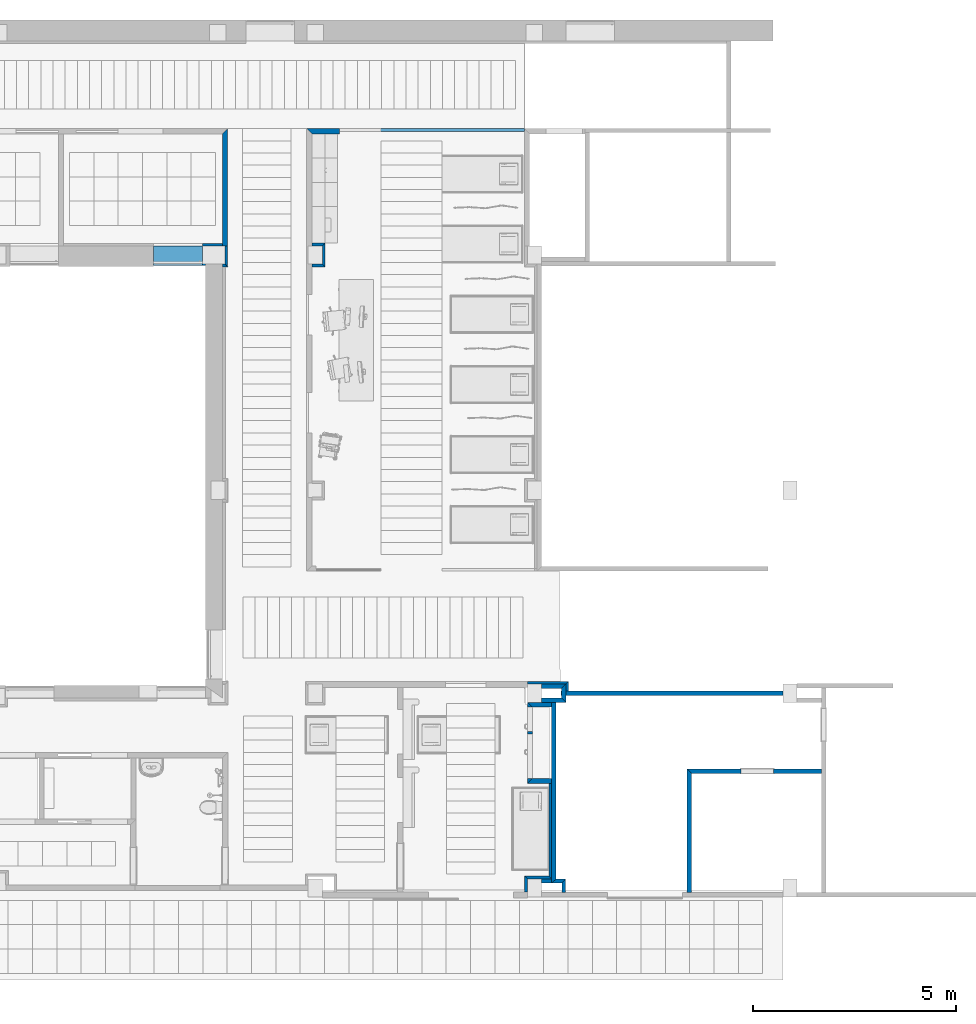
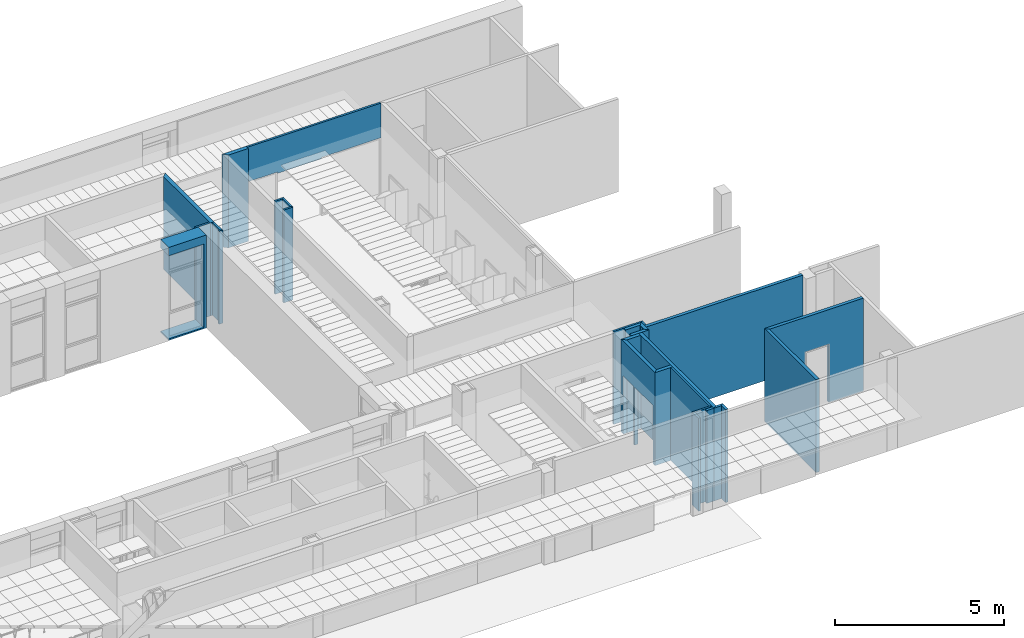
# One storey, part 45 of 68: 28 walls, 7 openings.
"""IFC2X3 building model written with IfcOpenShell, lengths in millimetres."""

from ifc_helpers import new_model, entity, si_unit, converted_unit, derived_unit, money_unit, direction, frame, origin_with_axes, origin_2d_with_axis, place, context, subcontext, project, spatial, polyline, rectangle, outline, extrude, material, layer, layer_set, layer_usage, type_object, element, save


model = new_model("IFC2X3")

# Units and contexts
model_context = context("Model", 3, precision=0.01, world=origin_with_axes(), true_north=direction((0.0, 1.0)))
body_context = subcontext(model_context, "Body", "Model", "MODEL_VIEW")
ifc_project = project(units=[si_unit("LENGTHUNIT", "METRE", prefix="MILLI"), si_unit("AREAUNIT", "SQUARE_METRE"), si_unit("VOLUMEUNIT", "CUBIC_METRE"), converted_unit("PLANEANGLEUNIT", "DEGREE", entity("IfcPlaneAngleMeasure", 0.0174532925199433), si_unit("PLANEANGLEUNIT", "RADIAN"), dimensions=[0, 0, 0, 0, 0, 0, 0]), money_unit("USD"), converted_unit("TIMEUNIT", "Year", entity("IfcTimeMeasure", 31557600.0), si_unit("TIMEUNIT", "SECOND"), dimensions=[0, 0, 1, 0, 0, 0, 0]), si_unit("MASSUNIT", "GRAM", prefix="KILO"), si_unit("THERMODYNAMICTEMPERATUREUNIT", "DEGREE_CELSIUS"), si_unit("LUMINOUSINTENSITYUNIT", "LUMEN"), si_unit("ENERGYUNIT", "JOULE", prefix="MEGA"), derived_unit("THERMALCONDUCTANCEUNIT", [(si_unit("POWERUNIT", "WATT"), 1), (si_unit("LENGTHUNIT", "METRE"), -1), (si_unit("THERMODYNAMICTEMPERATUREUNIT", "KELVIN"), -1)]), derived_unit("SPECIFICHEATCAPACITYUNIT", [(si_unit("ENERGYUNIT", "JOULE"), 1), (si_unit("MASSUNIT", "GRAM", prefix="KILO"), -1), (si_unit("THERMODYNAMICTEMPERATUREUNIT", "KELVIN"), -1)]), derived_unit("MASSDENSITYUNIT", [(si_unit("MASSUNIT", "GRAM", prefix="KILO"), 1), (si_unit("VOLUMEUNIT", "CUBIC_METRE"), -1)])], contexts=[model_context])

# Site, building, storey
site_placement = place(None, origin_with_axes())
site = spatial("IfcSite", under=ifc_project, at=site_placement, Name="Sitio", CompositionType="ELEMENT")
building_placement = place(site_placement, origin_with_axes())
building = spatial("IfcBuilding", under=site, at=building_placement, Name="Construcción", CompositionType="ELEMENT")
storey_placement = place(building_placement, origin_with_axes())
storey = spatial("IfcBuildingStorey", under=building, at=storey_placement, Name="PLANTA 1ª", CompositionType="ELEMENT", Elevation=0.0)

# Wall, opening
ifc_material_1 = material(Name="ARQ_AM246_Arrebossat_De_Guix")
ifc_layer_1 = layer(ifc_material_1, 10.0, ventilated="UNKNOWN")
ifc_material_2 = material(Name="ARQ_CE217_Gero")
ifc_layer_2 = layer(ifc_material_2, 120.0, ventilated="UNKNOWN")
ifc_material_3 = material(Name="ARQ_AI031_Aillament_Poliestireno expandido EPS")
ifc_layer_3 = layer(ifc_material_3, 120.0, ventilated="UNKNOWN")
ifc_material_4 = material(Name="ARQ_CE218_Ceramic")
ifc_layer_4 = layer(ifc_material_4, 220.0, ventilated="UNKNOWN")
ifc_layer_5 = layer(ifc_material_1, 10.0, ventilated="UNKNOWN")
ifc_layer_set_1 = layer_set([ifc_layer_1, ifc_layer_2, ifc_layer_3, ifc_layer_4, ifc_layer_5], Name="façana pati CR2 (ampit)")
ifc_layer_usage_1 = layer_usage(ifc_layer_set_1, "AXIS2", "POSITIVE", -480.0)
wall_type_1 = type_object("IfcWallType", Name="façana pati CR2 (ampit) 480", PredefinedType="NOTDEFINED")
wall_1_placement = place(storey_placement, frame((-3383.431355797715, -1193.975823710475, 0.0), z_axis=(0.0, 0.0, 1.0), x_axis=(1.0, 0.0, 0.0)))
wall_1 = element("IfcWallStandardCase", 1, at=wall_1_placement, inside=storey, type_object=wall_type_1, material=ifc_layer_usage_1, Name="MS-200", context=body_context, shape_type="SweptSolid", body=[
    extrude(outline(polyline([(0.0, -480.0), (1282.322350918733, -480.0), (1282.322350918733, 0.0), (0.0, 0.0), (0.0, -480.0)])), origin_with_axes(), (0.0, 0.0, 1.0), 3350.0),
])
opening_1_placement = place(wall_1_placement, frame((599.9999999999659, 0.0, 50.0), z_axis=(0.0, 0.0, 1.0), x_axis=(1.0, 0.0, 0.0)))
element("IfcOpeningElement", 2, at=opening_1_placement, cuts=wall_1, Name="F01", context=body_context, shape_type="SweptSolid", body=[
    extrude(rectangle(XDim=1199.999999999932, YDim=3000.0, at=origin_2d_with_axis()), frame((0.0, -429.9999999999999, 1500.0), z_axis=(0.0, -1.0, 0.0), x_axis=(-1.0, 0.0, 0.0)), (0.0, 0.0, -1.0), 909.9999999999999),
    extrude(rectangle(XDim=1199.999999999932, YDim=3000.0, at=origin_2d_with_axis()), frame((0.0, -429.9999999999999, 1500.0), z_axis=(0.0, 1.0, 0.0), x_axis=(-1.0, 0.0, 0.0)), (0.0, 0.0, -1.0), 530.0),
])

# Walls
ifc_material_5 = material(Name="Panel de Yeso Laminado")
ifc_layer_6 = layer(ifc_material_5, 13.0, ventilated="UNKNOWN")
ifc_layer_7 = layer(ifc_material_5, 13.0, ventilated="UNKNOWN")
ifc_material_6 = material(Name="ARQ_AI033_Aillament_Llana_De_Roca")
ifc_layer_8 = layer(ifc_material_6, 70.0, ventilated="UNKNOWN")
ifc_layer_9 = layer(ifc_material_5, 13.0, ventilated="UNKNOWN")
ifc_layer_10 = layer(ifc_material_5, 13.0, ventilated="UNKNOWN")
ifc_material_7 = material(Name="ARQ_EN271_Camara_Aire")
ifc_layer_11 = layer(ifc_material_7, 6.0, ventilated="UNKNOWN")
ifc_material_8 = material(Name="ARQ_FU093_Panellat_HPL")
ifc_layer_12 = layer(ifc_material_8, 6.0, ventilated="UNKNOWN")
ifc_layer_set_2 = layer_set([ifc_layer_6, ifc_layer_7, ifc_layer_8, ifc_layer_9, ifc_layer_10, ifc_layer_11, ifc_layer_12], Name="CR Pladur 70 HPL 1 cara")
ifc_layer_usage_2 = layer_usage(ifc_layer_set_2, "AXIS2", "NEGATIVE", 0.0)
wall_type_2 = type_object("IfcWallType", Name="CR Pladur 70 HPL 1 cara 134", PredefinedType="NOTDEFINED")
wall_2_placement = place(storey_placement, frame((-1690.109004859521, -1193.975823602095, 0.0), z_axis=(0.0, 0.0, 1.0), x_axis=(0.0, 1.0, 0.0)))
element("IfcWallStandardCase", 3, at=wall_2_placement, inside=storey, type_object=wall_type_2, material=ifc_layer_usage_2, Name="MS-213", context=body_context, shape_type="SweptSolid", body=[
    extrude(outline(polyline([(0.0, -133.9999999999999), (2894.828879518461, -133.9999999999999), (2760.828879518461, 0.0), (0.0, 0.0), (0.0, -133.9999999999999)])), origin_with_axes(), (0.0, 0.0, 1.0), 3350.0),
])
ifc_layer_usage_3 = layer_usage(ifc_layer_set_2, "AXIS2", "POSITIVE", -134.0)
wall_3_placement = place(storey_placement, frame((390.8910778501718, 1700.853055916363, 0.0), z_axis=(0.0, 0.0, 1.0), x_axis=(1.0, 0.0, 0.0)))
element("IfcWallStandardCase", 4, at=wall_3_placement, inside=storey, type_object=wall_type_2, material=ifc_layer_usage_3, Name="MS-212", context=body_context, shape_type="SweptSolid", body=[
    extrude(outline(polyline([(133.9999999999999, -134.0000000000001), (814.1461255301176, -134.0000000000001), (814.1461255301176, 0.0), (0.0, 0.0), (133.9999999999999, -134.0000000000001)])), origin_with_axes(), (0.0, 0.0, 1.0), 3350.0),
])

# Wall, openings
ifc_layer_13 = layer(ifc_material_5, 5.0, ventilated="UNKNOWN")
ifc_layer_14 = layer(ifc_material_6, 60.0, ventilated="UNKNOWN")
ifc_layer_15 = layer(ifc_material_5, 5.0, ventilated="UNKNOWN")
ifc_layer_set_3 = layer_set([ifc_layer_13, ifc_layer_14, ifc_layer_15], Name="CR- MAMPARA")
ifc_layer_usage_4 = layer_usage(ifc_layer_set_3, "AXIS2", "POSITIVE", -70.0)
wall_type_3 = type_object("IfcWallType", Name="CR- MAMPARA 70", PredefinedType="NOTDEFINED")
wall_4_placement = place(storey_placement, frame((1205.037203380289, 1700.853055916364, 0.0), z_axis=(0.0, 0.0, 1.0), x_axis=(1.0, 0.0, 0.0)))
wall_4 = element("IfcWallStandardCase", 5, at=wall_4_placement, inside=storey, type_object=wall_type_3, material=ifc_layer_usage_4, Name="MS-212", context=body_context, shape_type="SweptSolid", body=[
    extrude(outline(polyline([(0.0, -70.00000000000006), (4558.85379170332, -70.00000000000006), (4558.85379170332, 0.0), (0.0, 0.0), (0.0, -70.00000000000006)])), origin_with_axes(), (0.0, 0.0, 1.0), 3350.0),
])
opening_2_placement = place(wall_4_placement, frame((510.8960263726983, 0.0, 0.0), z_axis=(0.0, 0.0, 1.0), x_axis=(1.0, 0.0, 0.0)))
element("IfcOpeningElement", 6, at=opening_2_placement, cuts=wall_4, Name="M-08", context=body_context, shape_type="SweptSolid", body=[
    extrude(rectangle(XDim=1021.792052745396, YDim=2100.0, at=origin_2d_with_axis()), frame((0.0, -69.99999999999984, 1050.0), z_axis=(0.0, 1.0, 0.0), x_axis=(1.0, 0.0, 0.0)), (0.0, 0.0, 1.0), 210.0),
])
opening_3_placement = place(wall_4_placement, frame((3540.322922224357, 0.0, 0.0), z_axis=(0.0, 0.0, 1.0), x_axis=(1.0, 0.0, 0.0)))
element("IfcOpeningElement", 7, at=opening_3_placement, cuts=wall_4, Name="M-09", context=body_context, shape_type="SweptSolid", body=[
    extrude(rectangle(XDim=2037.061738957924, YDim=2100.0, at=origin_2d_with_axis()), frame((0.0, -69.99999999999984, 1050.0), z_axis=(0.0, 1.0, 0.0), x_axis=(1.0, 0.0, 0.0)), (0.0, 0.0, 1.0), 210.0),
])
opening_4_placement = place(wall_4_placement, frame((1771.792052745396, 0.0, 0.0), z_axis=(0.0, 0.0, 1.0), x_axis=(1.0, 0.0, 0.0)))
element("IfcOpeningElement", 8, at=opening_4_placement, cuts=wall_4, Name="PF-19D", context=body_context, shape_type="SweptSolid", body=[
    extrude(rectangle(XDim=1500.0, YDim=2050.0, at=origin_2d_with_axis()), frame((0.0, -69.99999999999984, 1025.0), z_axis=(0.0, -1.0, 0.0), x_axis=(1.0, 0.0, 0.0)), (0.0, 0.0, -1.0), 210.0),
])

# Walls
ifc_layer_16 = layer(ifc_material_8, 6.0, ventilated="UNKNOWN")
ifc_layer_17 = layer(ifc_material_7, 6.0, ventilated="UNKNOWN")
ifc_layer_18 = layer(ifc_material_5, 13.0, ventilated="UNKNOWN")
ifc_layer_19 = layer(ifc_material_6, 40.0, ventilated="UNKNOWN")
ifc_layer_set_4 = layer_set([ifc_layer_16, ifc_layer_17, ifc_layer_18, ifc_layer_19], Name="Pladur Tras 40 / 1N +HPL")
ifc_layer_usage_5 = layer_usage(ifc_layer_set_4, "AXIS2", "NEGATIVE", 65.0)
wall_type_4 = type_object("IfcWallType", Name="Pladur Tras 40 / 1N +HPL 65", PredefinedType="NOTDEFINED")
wall_5_placement = place(storey_placement, frame((6779.89099508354, -11988.97582371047, 0.0), z_axis=(0.0, 0.0, 1.0), x_axis=(0.0, -1.0, 0.0)))
element("IfcWallStandardCase", 9, at=wall_5_placement, inside=storey, type_object=wall_type_4, material=ifc_layer_usage_5, Name="MS-232", context=body_context, shape_type="SweptSolid", body=[
    extrude(outline(polyline([(0.0, 0.0), (169.9999999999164, 0.0), (169.9999999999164, 65.0000000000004), (-64.9999999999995, 65.0000000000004), (0.0, 0.0)])), origin_with_axes(), (0.0, 0.0, 1.0), 3350.0),
])
ifc_layer_usage_6 = layer_usage(ifc_layer_set_4, "AXIS2", "NEGATIVE", 65.0)
wall_6_placement = place(storey_placement, frame((5828.890995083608, -11988.97582371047, 0.0), z_axis=(0.0, 0.0, 1.0), x_axis=(1.0, 0.0, 0.0)))
element("IfcWallStandardCase", 10, at=wall_6_placement, inside=storey, type_object=wall_type_4, material=ifc_layer_usage_6, Name="MS-232", context=body_context, shape_type="SweptSolid", body=[
    extrude(outline(polyline([(0.0, 0.0), (950.9999999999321, 0.0), (1015.999999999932, 64.9999999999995), (0.0, 64.9999999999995), (0.0, 0.0)])), origin_with_axes(), (0.0, 0.0, 1.0), 3350.0),
])
ifc_layer_usage_7 = layer_usage(ifc_layer_set_4, "AXIS2", "POSITIVE", 0.0)
wall_7_placement = place(storey_placement, frame((6363.890995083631, -14316.97582370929, 0.0), z_axis=(0.0, 0.0, 1.0), x_axis=(0.0, -1.0, 0.0)))
element("IfcWallStandardCase", 11, at=wall_7_placement, inside=storey, type_object=wall_type_4, material=ifc_layer_usage_7, Name="MS-233", context=body_context, shape_type="SweptSolid", body=[
    extrude(outline(polyline([(121.9999999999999, 0.0), (2406.999834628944, 0.0), (2471.999834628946, 65.0000000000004), (122.000000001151, 65.0000000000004), (121.9999999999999, 0.0)])), origin_with_axes(), (0.0, 0.0, 1.0), 3350.0),
])
ifc_layer_usage_8 = layer_usage(ifc_layer_set_4, "AXIS2", "POSITIVE", 0.0)
wall_8_placement = place(storey_placement, frame((6363.890995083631, -16723.97565833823, 0.0), z_axis=(0.0, 0.0, 1.0), x_axis=(-1.0, 0.0, 0.0)))
element("IfcWallStandardCase", 12, at=wall_8_placement, inside=storey, type_object=wall_type_4, material=ifc_layer_usage_8, Name="MS-234", context=body_context, shape_type="SweptSolid", body=[
    extrude(outline(polyline([(0.0, 0.0), (599.9999474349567, 0.0), (534.9999474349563, 65.00000000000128), (-65.0000000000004, 65.00000000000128), (0.0, 0.0)])), origin_with_axes(), (0.0, 0.0, 1.0), 3350.0),
])
ifc_layer_usage_9 = layer_usage(ifc_layer_set_4, "AXIS2", "POSITIVE", 0.0)
wall_9_placement = place(storey_placement, frame((5763.891047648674, -16723.97565833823, 0.0), z_axis=(0.0, 0.0, 1.0), x_axis=(0.0, -1.0, 0.0)))
element("IfcWallStandardCase", 13, at=wall_9_placement, inside=storey, type_object=wall_type_4, material=ifc_layer_usage_9, Name="MS-235", context=body_context, shape_type="SweptSolid", body=[
    extrude(outline(polyline([(0.0, 0.0), (395.0000006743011, 0.0), (395.0000006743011, 65.0000000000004), (65.00000000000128, 65.0000000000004), (0.0, 0.0)])), origin_with_axes(), (0.0, 0.0, 1.0), 3350.0),
])
ifc_layer_usage_10 = layer_usage(ifc_layer_set_4, "AXIS2", "POSITIVE", -65.0)
wall_10_placement = place(storey_placement, frame((-1681.10900487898, -1638.975823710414, 0.0), z_axis=(0.0, 0.0, 1.0), x_axis=(1.0, 0.0, 0.0)))
element("IfcWallStandardCase", 14, at=wall_10_placement, inside=storey, type_object=wall_type_4, material=ifc_layer_usage_10, Name="MS-242", context=body_context, shape_type="SweptSolid", body=[
    extrude(outline(polyline([(0.0, -64.99999999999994), (125.0000000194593, -64.99999999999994), (60.00000001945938, 0.0), (0.0, 0.0), (0.0, -64.99999999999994)])), origin_with_axes(), (0.0, 0.0, 1.0), 3350.0),
])
ifc_layer_usage_11 = layer_usage(ifc_layer_set_4, "AXIS2", "POSITIVE", -65.0)
wall_11_placement = place(storey_placement, frame((-1621.109004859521, -1638.975823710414, 0.0), z_axis=(0.0, 0.0, 1.0), x_axis=(0.0, 1.0, 0.0)))
element("IfcWallStandardCase", 15, at=wall_11_placement, inside=storey, type_object=wall_type_4, material=ifc_layer_usage_11, Name="MS-243", context=body_context, shape_type="SweptSolid", body=[
    extrude(outline(polyline([(-64.99999999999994, -64.99999999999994), (445.0000001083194, -64.99999999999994), (445.0000001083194, 0.0), (0.0, 0.0), (-64.99999999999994, -64.99999999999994)])), origin_with_axes(), (0.0, 0.0, 1.0), 3350.0),
])
ifc_layer_20 = layer(ifc_material_1, 10.0, ventilated="UNKNOWN")
ifc_layer_21 = layer(ifc_material_2, 90.0, ventilated="UNKNOWN")
ifc_layer_22 = layer(ifc_material_1, 10.0, ventilated="UNKNOWN")
ifc_layer_set_5 = layer_set([ifc_layer_20, ifc_layer_21, ifc_layer_22], Name="CR Enva Totxana")
ifc_layer_usage_12 = layer_usage(ifc_layer_set_5, "AXIS2", "POSITIVE", 0.0)
wall_type_5 = type_object("IfcWallType", Name="CR Enva Totxana 110", PredefinedType="NOTDEFINED")
wall_12_placement = place(storey_placement, frame((6428.890995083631, -12438.97582371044, 0.0), z_axis=(0.0, 0.0, 1.0), x_axis=(0.0, -1.0, 0.0)))
element("IfcWallStandardCase", 16, at=wall_12_placement, inside=storey, type_object=wall_type_5, material=ifc_layer_usage_12, Name="MS-207", context=body_context, shape_type="SweptSolid", body=[
    extrude(outline(polyline([(0.0, 0.0), (4450.000000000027, 0.0), (4360.000000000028, 110.0000000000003), (0.0, 110.0000000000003), (0.0, 0.0)])), origin_with_axes(), (0.0, 0.0, 1.0), 3350.0),
])
ifc_layer_usage_13 = layer_usage(ifc_layer_set_5, "AXIS2", "POSITIVE", 0.0)
wall_13_placement = place(storey_placement, frame((6178.891047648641, -12438.97582371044, 0.0), z_axis=(0.0, 0.0, 1.0), x_axis=(1.0, 0.0, 0.0)))
element("IfcWallStandardCase", 17, at=wall_13_placement, inside=storey, type_object=wall_type_5, material=ifc_layer_usage_13, Name="MS-206", context=body_context, shape_type="SweptSolid", body=[
    extrude(outline(polyline([(0.0, 0.0), (599.9999474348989, 0.0), (489.9999474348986, 109.9999999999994), (0.0, 109.9999999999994), (0.0, 0.0)])), origin_with_axes(), (0.0, 0.0, 1.0), 3350.0),
])
ifc_layer_usage_14 = layer_usage(ifc_layer_set_5, "AXIS2", "POSITIVE", 0.0)
wall_14_placement = place(storey_placement, frame((9768.890995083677, -14188.97582371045, 0.0), z_axis=(0.0, 0.0, 1.0), x_axis=(0.0, -1.0, 0.0)))
element("IfcWallStandardCase", 18, at=wall_14_placement, inside=storey, type_object=wall_type_5, material=ifc_layer_usage_14, Name="MS-207", context=body_context, shape_type="SweptSolid", body=[
    extrude(outline(polyline([(-109.9999999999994, 0.0), (2939.999835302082, 0.0), (2939.999835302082, 109.9999999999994), (0.0, 109.9999999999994), (-109.9999999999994, 0.0)])), origin_with_axes(), (0.0, 0.0, 1.0), 3350.0),
])

# Wall, opening
ifc_layer_usage_15 = layer_usage(ifc_layer_set_5, "AXIS2", "POSITIVE", 0.0)
wall_15_placement = place(storey_placement, frame((9768.890995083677, -14188.97582371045, 0.0), z_axis=(0.0, 0.0, 1.0), x_axis=(1.0, 0.0, 0.0)))
wall_15 = element("IfcWallStandardCase", 19, at=wall_15_placement, inside=storey, type_object=wall_type_5, material=ifc_layer_usage_15, Name="MS-206", context=body_context, shape_type="SweptSolid", body=[
    extrude(outline(polyline([(109.9999999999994, 0.0), (3309.999999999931, 0.0), (3309.999999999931, 109.9999999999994), (0.0, 109.9999999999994), (109.9999999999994, 0.0)])), origin_with_axes(), (0.0, 0.0, 1.0), 3350.0),
])
opening_5_placement = place(wall_15_placement, frame((1729.853695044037, 0.0, 0.0), z_axis=(0.0, 0.0, 1.0), x_axis=(1.0, 0.0, 0.0)))
element("IfcOpeningElement", 20, at=opening_5_placement, cuts=wall_15, Name="PF-10D", context=body_context, shape_type="SweptSolid", body=[
    extrude(rectangle(XDim=800.0000000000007, YDim=2100.0, at=origin_2d_with_axis()), frame((0.0, 109.9999999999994, 1050.0), z_axis=(0.0, -1.0, 0.0), x_axis=(-1.0, 0.0, 0.0)), (0.0, 0.0, 1.0), 329.9999999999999),
    extrude(rectangle(XDim=844.0000000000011, YDim=2122.0, at=origin_2d_with_axis()), frame((0.0, 110.0000000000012, 1061.0), z_axis=(0.0, -1.0, 0.0), x_axis=(-1.0, 0.0, 0.0)), (0.0, 0.0, -1.0), 110.0),
    extrude(rectangle(XDim=844.0000000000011, YDim=2122.0, at=origin_2d_with_axis()), frame((0.0, 0.0, 1061.0), z_axis=(0.0, 1.0, 0.0), x_axis=(-1.0, 0.0, 0.0)), (0.0, 0.0, -1.0), 110.0),
])

# Walls
ifc_layer_usage_16 = layer_usage(ifc_layer_set_5, "AXIS2", "POSITIVE", 0.0)
wall_16_placement = place(storey_placement, frame((6778.89099508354, -12438.97582371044, 0.0), z_axis=(0.0, 0.0, 1.0), x_axis=(0.0, 1.0, 0.0)))
element("IfcWallStandardCase", 21, at=wall_16_placement, inside=storey, type_object=wall_type_5, material=ifc_layer_usage_16, Name="MS-206", context=body_context, shape_type="SweptSolid", body=[
    extrude(outline(polyline([(0.0, 0.0), (449.9999999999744, 0.0), (339.999999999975, 110.0000000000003), (109.9999999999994, 110.0000000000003), (0.0, 0.0)])), origin_with_axes(), (0.0, 0.0, 1.0), 3350.0),
])
ifc_layer_usage_17 = layer_usage(ifc_layer_set_5, "AXIS2", "POSITIVE", 0.0)
wall_17_placement = place(storey_placement, frame((6178.891047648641, -12098.97582371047, 0.0), z_axis=(0.0, 0.0, 1.0), x_axis=(1.0, 0.0, 0.0)))
element("IfcWallStandardCase", 22, at=wall_17_placement, inside=storey, type_object=wall_type_5, material=ifc_layer_usage_17, Name="MS-206", context=body_context, shape_type="SweptSolid", body=[
    extrude(outline(polyline([(0.0, 0.0), (489.9999474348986, 0.0), (599.9999474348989, 109.9999999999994), (0.0, 109.9999999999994), (0.0, 0.0)])), origin_with_axes(), (0.0, 0.0, 1.0), 3350.0),
])
ifc_layer_usage_18 = layer_usage(ifc_layer_set_5, "AXIS2", "POSITIVE", 0.0)
wall_18_placement = place(storey_placement, frame((6655.026149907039, -12268.97582371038, 0.0), z_axis=(0.0, 0.0, 1.0), x_axis=(1.0, 0.0, 0.0)))
element("IfcWallStandardCase", 23, at=wall_18_placement, inside=storey, type_object=wall_type_5, material=ifc_layer_usage_18, Name="MS-206", context=body_context, shape_type="SweptSolid", body=[
    extrude(outline(polyline([(0.0, 0.0), (5473.86484517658, 0.0), (5473.86484517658, 109.9999999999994), (0.0, 109.9999999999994), (0.0, 0.0)])), origin_with_axes(), (0.0, 0.0, 1.0), 3350.0),
])
ifc_layer_23 = layer(ifc_material_1, 10.0, ventilated="UNKNOWN")
ifc_layer_24 = layer(ifc_material_2, 70.0, ventilated="UNKNOWN")
ifc_layer_25 = layer(ifc_material_1, 10.0, ventilated="UNKNOWN")
ifc_layer_set_6 = layer_set([ifc_layer_23, ifc_layer_24, ifc_layer_25], Name="CR Enva Totxaneta")
ifc_layer_usage_19 = layer_usage(ifc_layer_set_6, "AXIS2", "POSITIVE", 0.0)
wall_type_6 = type_object("IfcWallType", Name="CR Enva Totxaneta 90", PredefinedType="NOTDEFINED")
wall_19_placement = place(storey_placement, frame((6428.890995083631, -16888.97582371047, 0.0), z_axis=(0.0, 0.0, 1.0), x_axis=(1.0, 0.0, 0.0)))
element("IfcWallStandardCase", 24, at=wall_19_placement, inside=storey, type_object=wall_type_6, material=ifc_layer_usage_19, Name="MS-208", context=body_context, shape_type="SweptSolid", body=[
    extrude(outline(polyline([(0.0, 0.0), (250.0, 0.0), (339.9999999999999, 89.99999999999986), (110.0000000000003, 89.99999999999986), (0.0, 0.0)])), origin_with_axes(), (0.0, 0.0, 1.0), 3350.0),
])
ifc_layer_usage_20 = layer_usage(ifc_layer_set_6, "AXIS2", "POSITIVE", 0.0)
wall_20_placement = place(storey_placement, frame((6678.890995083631, -16888.97582371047, 0.0), z_axis=(0.0, 0.0, 1.0), x_axis=(0.0, -1.0, 0.0)))
element("IfcWallStandardCase", 25, at=wall_20_placement, inside=storey, type_object=wall_type_6, material=ifc_layer_usage_20, Name="MS-209", context=body_context, shape_type="SweptSolid", body=[
    extrude(outline(polyline([(0.0, 0.0), (239.9998353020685, 0.0), (239.9998353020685, 89.99999999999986), (-89.99999999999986, 89.99999999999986), (0.0, 0.0)])), origin_with_axes(), (0.0, 0.0, 1.0), 3350.0),
])
ifc_layer_usage_21 = layer_usage(ifc_layer_set_6, "AXIS2", "POSITIVE", -90.0)
wall_21_placement = place(storey_placement, frame((6428.890995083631, -16888.97582371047, 0.0), z_axis=(0.0, 0.0, 1.0), x_axis=(-1.0, 0.0, 0.0)))
element("IfcWallStandardCase", 26, at=wall_21_placement, inside=storey, type_object=wall_type_6, material=ifc_layer_usage_21, Name="MS-210", context=body_context, shape_type="SweptSolid", body=[
    extrude(outline(polyline([(0.0, -89.99999999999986), (250.0, -89.99999999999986), (250.0, 0.0), (0.0, 0.0), (0.0, -89.99999999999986)])), origin_with_axes(), (0.0, 0.0, 1.0), 3350.0),
])
ifc_layer_26 = layer(ifc_material_5, 13.0, ventilated="UNKNOWN")
ifc_layer_27 = layer(ifc_material_5, 13.0, ventilated="UNKNOWN")
ifc_layer_28 = layer(ifc_material_6, 40.0, ventilated="UNKNOWN")
ifc_layer_set_7 = layer_set([ifc_layer_26, ifc_layer_27, ifc_layer_28], Name="Pladur Tras 40 / 2N")
ifc_layer_usage_22 = layer_usage(ifc_layer_set_7, "AXIS2", "POSITIVE", 0.0)
wall_type_7 = type_object("IfcWallType", Name="Pladur Tras 40 / 2N 66", PredefinedType="NOTDEFINED")
wall_22_placement = place(storey_placement, frame((843.8910476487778, -1703.975823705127, 0.0), z_axis=(0.0, 0.0, 1.0), x_axis=(0.0, 1.0, 0.0)))
element("IfcWallStandardCase", 27, at=wall_22_placement, inside=storey, type_object=wall_type_7, material=ifc_layer_usage_22, Name="MS-212", context=body_context, shape_type="SweptSolid", body=[
    extrude(outline(polyline([(0.0, 0.0), (580.0001646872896, 0.0), (514.0001646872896, 66.00000000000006), (66.00000000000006, 66.00000000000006), (0.0, 0.0)])), origin_with_axes(), (0.0, 0.0, 1.0), 3350.0),
])
ifc_layer_usage_23 = layer_usage(ifc_layer_set_7, "AXIS2", "POSITIVE", 0.0)
wall_23_placement = place(storey_placement, frame((843.8910476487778, -1123.975659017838, 0.0), z_axis=(0.0, 0.0, 1.0), x_axis=(-1.0, 0.0, 0.0)))
element("IfcWallStandardCase", 28, at=wall_23_placement, inside=storey, type_object=wall_type_7, material=ifc_layer_usage_23, Name="MS-212", context=body_context, shape_type="SweptSolid", body=[
    extrude(outline(polyline([(0.0, 0.0), (318.9999697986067, 0.0), (318.9999697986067, 66.00000000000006), (66.00000000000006, 66.00000000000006), (0.0, 0.0)])), origin_with_axes(), (0.0, 0.0, 1.0), 3350.0),
])
ifc_layer_usage_24 = layer_usage(ifc_layer_set_7, "AXIS2", "POSITIVE", 0.0)
wall_24_placement = place(storey_placement, frame((390.891077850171, -1703.975823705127, 0.0), z_axis=(0.0, 0.0, 1.0), x_axis=(1.0, 0.0, 0.0)))
element("IfcWallStandardCase", 29, at=wall_24_placement, inside=storey, type_object=wall_type_7, material=ifc_layer_usage_24, Name="MS-212", context=body_context, shape_type="SweptSolid", body=[
    extrude(outline(polyline([(134.0, 0.0), (452.9999697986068, 0.0), (386.9999697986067, 66.00000000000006), (134.0, 66.00000000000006), (134.0, 0.0)])), origin_with_axes(), (0.0, 0.0, 1.0), 3350.0),
])
ifc_layer_usage_25 = layer_usage(ifc_layer_set_7, "AXIS2", "NEGATIVE", 0.0)
wall_25_placement = place(storey_placement, frame((-2183.431355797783, -1128.975823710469, 0.0), z_axis=(0.0, 0.0, 1.0), x_axis=(1.0, 0.0, 0.0)))
element("IfcWallStandardCase", 30, at=wall_25_placement, inside=storey, type_object=wall_type_7, material=ifc_layer_usage_25, Name="MS-241", context=body_context, shape_type="SweptSolid", body=[
    extrude(outline(polyline([(0.0, -66.00000000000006), (493.3223509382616, -66.00000000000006), (493.3223509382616, 0.0), (0.0, 0.0), (0.0, -66.00000000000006)])), origin_with_axes(), (0.0, 0.0, 1.0), 3350.0),
])
ifc_material_9 = material(Name="ARQ_CG062_Guix_Laminat_Foc")
ifc_layer_29 = layer(ifc_material_9, 13.0, ventilated="UNKNOWN")
ifc_layer_30 = layer(ifc_material_9, 13.0, ventilated="UNKNOWN")
ifc_layer_31 = layer(ifc_material_6, 70.0, ventilated="UNKNOWN")
ifc_layer_32 = layer(ifc_material_9, 13.0, ventilated="UNKNOWN")
ifc_layer_33 = layer(ifc_material_9, 13.0, ventilated="UNKNOWN")
ifc_layer_set_8 = layer_set([ifc_layer_29, ifc_layer_30, ifc_layer_31, ifc_layer_32, ifc_layer_33], Name="Pladur 70 Foc/ 2F+2F")
ifc_layer_usage_26 = layer_usage(ifc_layer_set_8, "AXIS2", "POSITIVE", 0.0)
wall_type_8 = type_object("IfcWallType", Name="Pladur 70 Foc/ 2F+2F 122", PredefinedType="NOTDEFINED")
wall_26_placement = place(storey_placement, frame((6428.890995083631, -12438.97582371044, 0.0), z_axis=(0.0, 0.0, 1.0), x_axis=(-1.0, 0.0, 0.0)))
element("IfcWallStandardCase", 31, at=wall_26_placement, inside=storey, type_object=wall_type_8, material=ifc_layer_usage_26, Name="MS-216", context=body_context, shape_type="SweptSolid", body=[
    extrude(outline(polyline([(0.0, 0.0), (600.0000000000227, 0.0), (477.9999999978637, 121.9999999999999), (0.0, 121.9999999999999), (0.0, 0.0)])), origin_with_axes(), (0.0, 0.0, 1.0), 3350.0),
])

# Wall, openings
ifc_layer_usage_27 = layer_usage(ifc_layer_set_8, "AXIS2", "POSITIVE", 0.0)
wall_27_placement = place(storey_placement, frame((5828.890995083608, -12438.97582369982, 0.0), z_axis=(0.0, 0.0, 1.0), x_axis=(0.0, -1.0, 0.0)))
wall_27 = element("IfcWallStandardCase", 32, at=wall_27_placement, inside=storey, type_object=wall_type_8, material=ifc_layer_usage_27, Name="MS-217", context=body_context, shape_type="SweptSolid", body=[
    extrude(outline(polyline([(0.0, 0.0), (2000.0, 0.0), (1878.000000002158, 121.9999999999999), (122.0000000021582, 121.9999999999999), (0.0, 0.0)])), origin_with_axes(), (0.0, 0.0, 1.0), 3350.0),
])
opening_6_placement = place(wall_27_placement, frame((422.0000000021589, 0.0, 0.0), z_axis=(0.0, 0.0, 1.0), x_axis=(1.0, 0.0, 0.0)))
element("IfcOpeningElement", 33, at=opening_6_placement, cuts=wall_27, Name="PF-1", context=body_context, shape_type="SweptSolid", body=[
    extrude(rectangle(XDim=600.0000000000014, YDim=2100.0, at=origin_2d_with_axis()), frame((0.0, -121.9999999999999, 1050.0), z_axis=(0.0, 1.0, 0.0), x_axis=(-1.0, 0.0, 0.0)), (0.0, 0.0, 1.0), 366.0),
])
opening_7_placement = place(wall_27_placement, frame((1332.501472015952, 0.0, 0.0), z_axis=(0.0, 0.0, 1.0), x_axis=(1.0, 0.0, 0.0)))
element("IfcOpeningElement", 34, at=opening_7_placement, cuts=wall_27, Name="PF-2", context=body_context, shape_type="SweptSolid", body=[
    extrude(rectangle(XDim=1090.997055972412, YDim=2100.0, at=origin_2d_with_axis()), frame((0.0, -121.9999999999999, 1050.0), z_axis=(0.0, 1.0, 0.0), x_axis=(-1.0, 0.0, 0.0)), (0.0, 0.0, 1.0), 366.0),
])

# Wall
ifc_layer_usage_28 = layer_usage(ifc_layer_set_8, "AXIS2", "POSITIVE", 0.0)
wall_28_placement = place(storey_placement, frame((6428.890995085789, -14316.97582371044, 0.0), z_axis=(0.0, 0.0, 1.0), x_axis=(-1.0, 0.0, 0.0)))
element("IfcWallStandardCase", 35, at=wall_28_placement, inside=storey, type_object=wall_type_8, material=ifc_layer_usage_28, Name="MS-216", context=body_context, shape_type="SweptSolid", body=[
    extrude(outline(polyline([(2.158273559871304e-09, 0.0), (478.0000000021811, 0.0), (600.0000000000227, 121.9999999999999), (0.0, 121.9999999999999), (2.158273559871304e-09, 0.0)])), origin_with_axes(), (0.0, 0.0, 1.0), 3350.0),
])

save(model, "model.ifc")
